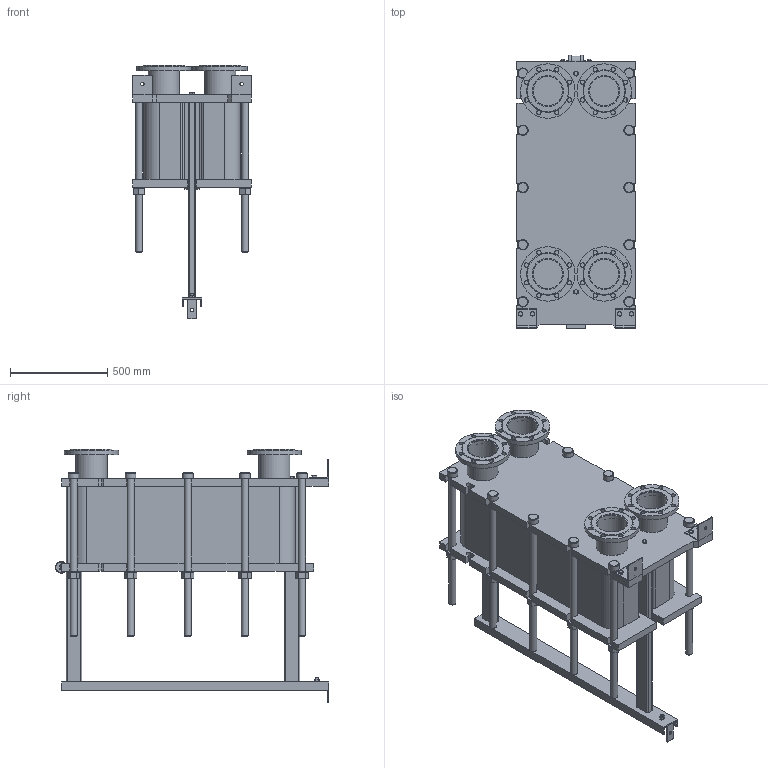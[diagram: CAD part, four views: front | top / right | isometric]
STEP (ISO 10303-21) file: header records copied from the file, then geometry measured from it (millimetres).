
FILE_DESCRIPTION(/* description */ (''),/* implementation_level */ '2;1');
FILE_NAME(/* name */ 'C:\Users\zhuro\Desktop\ENCO\TO\ЭН-041\ЭН-0,5-041-115-1.stp',/* time_stamp */ '2022-06-06T10:59:16+03:00',/* author */ ('zhuro'),/* organization */ (''),/* preprocessor_version */ 'ST-DEVELOPER v18.1',/* originating_system */ 'Autodesk Inventor 2022',/* authorisation */ '');
FILE_SCHEMA (('AUTOMOTIVE_DESIGN { 1 0 10303 214 3 1 1 }'));
Length unit declared in the file: millimetre
Products named in the file (1): ЭН-0,5-041-115-1
Bounding box: 610 x 1406.5 x 1302.5 mm (x, y, z)
Volume: 304674230.6 mm3; surface area: 9355248.8 mm2
Topology: 52 solids, 52 shells, 711 faces, 1696 edges, 1094 vertices
Faces by surface type: plane 487, cylinder 177, cone 41, torus 6
Full cylindrical faces by diameter (mm): 8 x4, 10 x2, 16 x8, 18 x3, 22 x32, 36 x24, 50 x1, 54 x10, 60 x12, 151 x4, 161 x8, 280 x4
Entity records: 22667 total; most frequent: CARTESIAN_POINT 5230, DIRECTION 3644, ORIENTED_EDGE 3392, EDGE_CURVE 1696, AXIS2_PLACEMENT_3D 1272, LINE 1100, VECTOR 1100, VERTEX_POINT 1094
